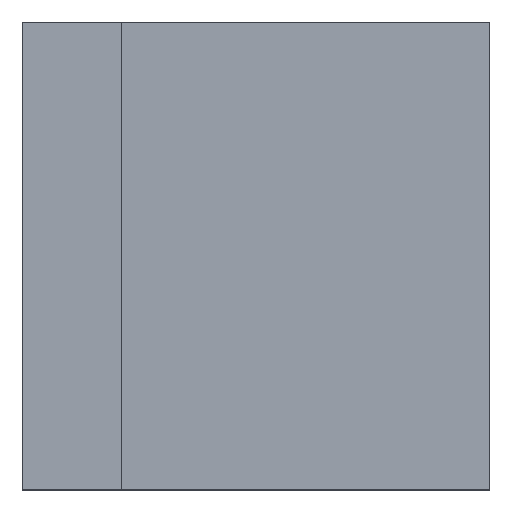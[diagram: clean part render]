
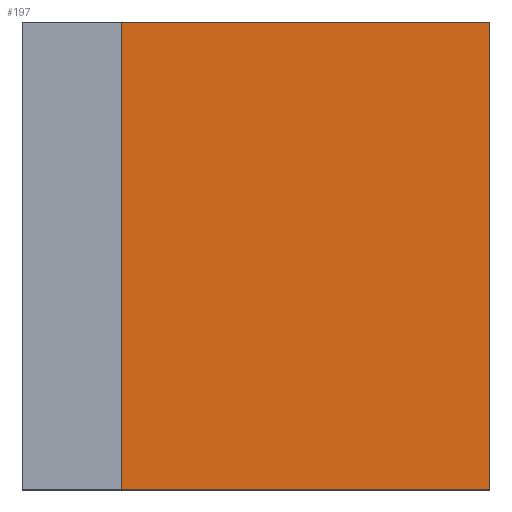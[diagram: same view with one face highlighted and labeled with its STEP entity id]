
A CAD part, top view. The second image highlights one B-rep face of the part: STEP entity #197.
In plain terms, the highlighted planar face has unit normal (0, 0, 1).
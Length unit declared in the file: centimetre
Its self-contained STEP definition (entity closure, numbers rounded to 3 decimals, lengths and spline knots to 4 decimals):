
#6 = DIRECTION ( 'NONE',  ( 1., 0., 0. ) ) ;
#17 = AXIS2_PLACEMENT_3D ( 'NONE', #141, #136, #395 ) ;
#21 = LINE ( 'NONE', #358, #51 ) ;
#42 = EDGE_CURVE ( 'NONE', #109, #190, #209, .T. ) ;
#51 = VECTOR ( 'NONE', #270, 100. ) ;
#60 = LINE ( 'NONE', #385, #240 ) ;
#79 = CARTESIAN_POINT ( 'NONE',  ( 1000., 1000., 1000. ) ) ;
#85 = EDGE_CURVE ( 'NONE', #245, #109, #290, .T. ) ;
#101 = CARTESIAN_POINT ( 'NONE',  ( 1000., 1000., 1000. ) ) ;
#109 = VERTEX_POINT ( 'NONE', #137 ) ;
#132 = EDGE_CURVE ( 'NONE', #190, #408, #21, .T. ) ;
#136 = DIRECTION ( 'NONE',  ( 0., 0., 1. ) ) ;
#137 = CARTESIAN_POINT ( 'NONE',  ( 1000., 0., 1000. ) ) ;
#140 = EDGE_LOOP ( 'NONE', ( #225, #342, #241, #378 ) ) ;
#141 = CARTESIAN_POINT ( 'NONE',  ( 0., 0., 1000. ) ) ;
#157 = EDGE_CURVE ( 'NONE', #408, #245, #60, .T. ) ;
#164 = DIRECTION ( 'NONE',  ( 0., -1., 0. ) ) ;
#180 = DIRECTION ( 'NONE',  ( 0., 1., 0. ) ) ;
#190 = VERTEX_POINT ( 'NONE', #101 ) ;
#197 = ADVANCED_FACE ( 'NONE', ( #304 ), #300, .T. ) ;
#209 = LINE ( 'NONE', #79, #276 ) ;
#225 = ORIENTED_EDGE ( 'NONE', *, *, #157, .T. ) ;
#240 = VECTOR ( 'NONE', #164, 100. ) ;
#241 = ORIENTED_EDGE ( 'NONE', *, *, #42, .T. ) ;
#245 = VERTEX_POINT ( 'NONE', #312 ) ;
#249 = VECTOR ( 'NONE', #6, 100. ) ;
#270 = DIRECTION ( 'NONE',  ( -1., 0., 0. ) ) ;
#276 = VECTOR ( 'NONE', #180, 100. ) ;
#290 = LINE ( 'NONE', #380, #249 ) ;
#294 = CARTESIAN_POINT ( 'NONE',  ( 212.8164, 1000., 1000. ) ) ;
#300 = PLANE ( 'NONE',  #17 ) ;
#304 = FACE_OUTER_BOUND ( 'NONE', #140, .T. ) ;
#312 = CARTESIAN_POINT ( 'NONE',  ( 212.8164, 0., 1000. ) ) ;
#342 = ORIENTED_EDGE ( 'NONE', *, *, #85, .T. ) ;
#358 = CARTESIAN_POINT ( 'NONE',  ( 0., 1000., 1000. ) ) ;
#378 = ORIENTED_EDGE ( 'NONE', *, *, #132, .T. ) ;
#380 = CARTESIAN_POINT ( 'NONE',  ( 0., 0., 1000. ) ) ;
#385 = CARTESIAN_POINT ( 'NONE',  ( 212.8164, 1000., 1000. ) ) ;
#395 = DIRECTION ( 'NONE',  ( 1., 0., 0. ) ) ;
#408 = VERTEX_POINT ( 'NONE', #294 ) ;
